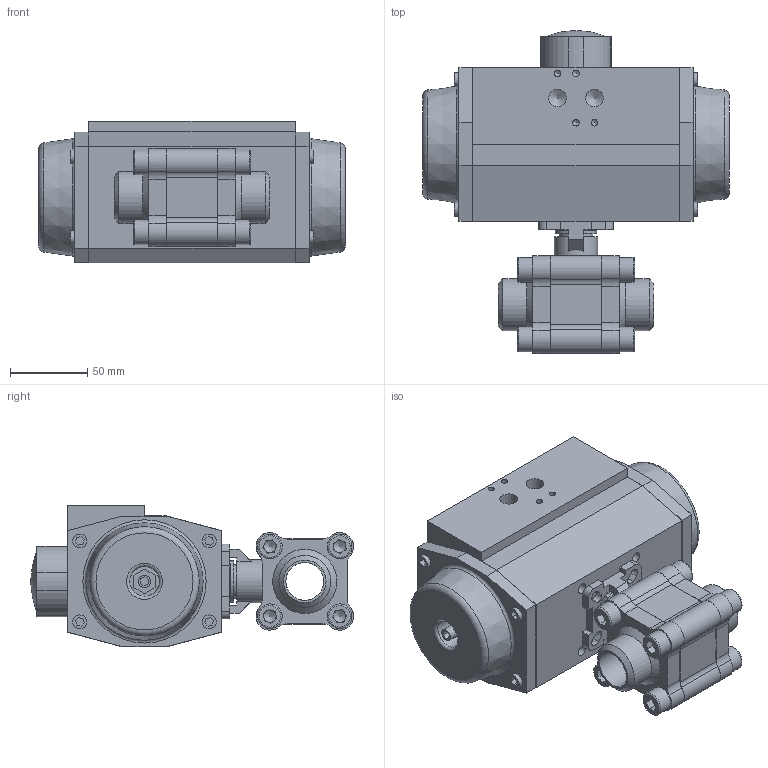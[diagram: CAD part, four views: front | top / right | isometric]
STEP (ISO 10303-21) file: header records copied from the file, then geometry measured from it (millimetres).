
FILE_DESCRIPTION (( 'STEP AP214' ), '1' );
FILE_NAME ('S33D BW DN25 + AP3.STEP', '2025-08-13T08:31:31', ( '' ), ( '' ), 'SwSTEP 2.0', 'SolidWorks 2021', '' );
FILE_SCHEMA (( 'AUTOMOTIVE_DESIGN' ));
Length unit declared in the file: millimetre
Products named in the file (6): socket head cap screw_din_DIN 912 M10 x 25 --- 25N; AP3_Default<As Machined>; S33D DN25 Buttweld; S33D BW DN25 + AP3; S33D KK DN25 PN100; S33D Flens Buttweld DN25
Assembly tree (13 placements, depth 3):
  S33D BW DN25 + AP3
    S33D DN25 Buttweld
      S33D KK DN25 PN100
      S33D Flens Buttweld DN25  x2
      socket head cap screw_din_DIN 912 M10 x 25 --- 25N  x8
    AP3_Default<As Machined>
Bounding box: 199 x 209.61 x 92 mm (x, y, z)
Volume: 1713082.8 mm3; surface area: 176335.7 mm2
Topology: 19 solids, 19 shells, 541 faces, 1306 edges, 841 vertices
Faces by surface type: plane 356, cylinder 122, cone 40, torus 22, sphere 1
Full cylindrical faces by diameter (mm): 4.2 x8, 5 x4, 6.8 x4, 8 x2, 8.5 x4, 9 x8, 10 x8, 10.5 x8, 11.445 x2, 16 x8, 19.3 x2, 22 x1, 24.5 x1, 24.6 x2, 27 x1, 28 x2, 32.5 x1, 33.65 x2, 35 x1, 45.8 x1
Entity records: 11538 total; most frequent: CARTESIAN_POINT 1791, DIRECTION 1777, ORIENTED_EDGE 1612, EDGE_CURVE 806, LINE 595, VECTOR 595, AXIS2_PLACEMENT_3D 591, VERTEX_POINT 573
